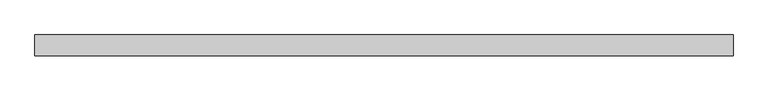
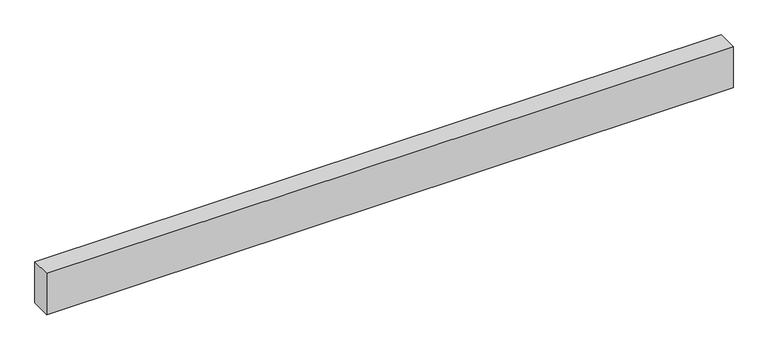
"""IFC4 building model written with IfcOpenShell, lengths in millimetres: proxy geometry."""

from ifc_helpers import new_model, si_unit, frame, origin, place, context, project, spatial, polyline, outline, extrude, source, transform, mapped, element, save


def structural_framing_6d77a632(model_context):
    return source(origin(), model_context, "Body", "SweptSolid", [
        extrude(outline(polyline([(-2362.85, -70.0), (-2362.85, 70.0), (2362.85, 70.0), (2362.85, -70.0), (-2362.85, -70.0)])), frame((0.0, 0.0, -300.0), z_axis=(0.0, 0.0, 1.0), x_axis=(1.0, 0.0, 0.0)), (0.0, 0.0, 1.0), 300.0),
    ])


if __name__ == "__main__":
    model = new_model("IFC4")
    model_context = context("Model", 3, world=origin())
    ifc_project = project(units=[si_unit("LENGTHUNIT", "METRE", prefix="MILLI")], contexts=[model_context])
    site = spatial("IfcSite", under=ifc_project)
    building = spatial("IfcBuilding", under=site)
    placement = place(None, origin())
    structural_framing_shape = structural_framing_6d77a632(model_context)
    element("IfcBuildingElementProxy", 1, Name="Structural Framing", at=placement, inside=building, context=model_context, shape_type="MappedRepresentation", body=[
        mapped(structural_framing_shape, transform((0.0, 0.0, 0.0), x_axis=(1.0, 0.0, 0.0), y_axis=(0.0, 1.0, 0.0), z_axis=(0.0, 0.0, 1.0))),
    ])
    save(model, "model.ifc")
